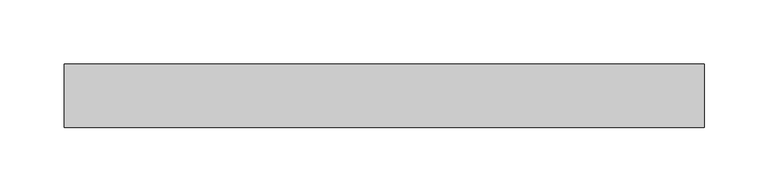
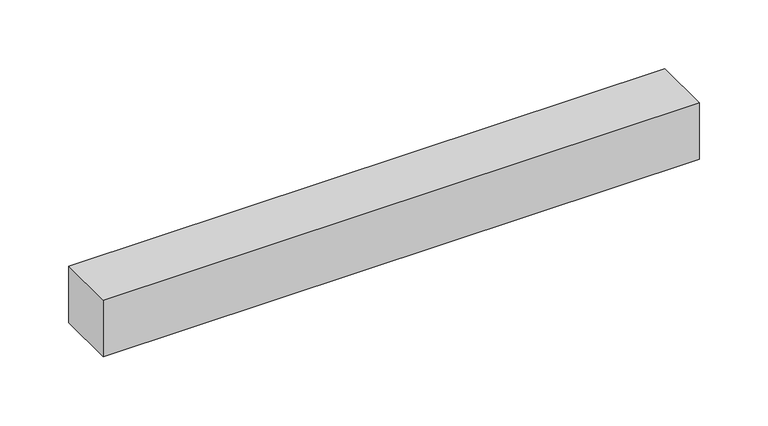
"""IFC4 building model written with IfcOpenShell, lengths in millimetres: light fixture geometry, GENILED_Светильник светодиодный_Line Alum Advanced : Line Alum Advanced 500x50x50 20Вт 90Ra Опал."""

from ifc_helpers import new_model, si_unit, origin, origin_with_axes, place, context, project, spatial, polyline, outline, extrude, faceted_brep, source, transform, mapped, element, save


def light_fixture_ffda42ea(model_context):
    return source(origin(), model_context, "Body", "SolidModel", [
        faceted_brep([(250.0, 25.0, 50.0), (-250.0, 25.0, 50.0), (-250.0, -25.0, 50.0), (250.0, -25.0, 50.0), (248.0, 23.0, 5.0), (248.0, -23.0, 5.0), (-248.0, -23.0, 5.0), (-248.0, 23.0, 5.0), (250.0, 25.0, 0.0), (250.0, -25.0, 0.0), (-250.0, -25.0, 0.0), (-250.0, 25.0, 0.0), (248.0, 23.0, 0.0), (-248.0, 23.0, 0.0), (-248.0, -23.0, 0.0), (248.0, -23.0, 0.0)], [[[0, 1, 2, 3]], [[4, 5, 6, 7]], [[8, 9, 10, 11], [12, 13, 14, 15]], [[1, 0, 8, 11]], [[2, 1, 11, 10]], [[3, 2, 10, 9]], [[0, 3, 9, 8]], [[12, 15, 5, 4]], [[15, 14, 6, 5]], [[14, 13, 7, 6]], [[13, 12, 4, 7]]]),
        extrude(outline(polyline([(248.0, 23.0), (248.0, -23.0), (-248.0, -23.0), (-248.0, 23.0), (248.0, 23.0)])), origin_with_axes(), (0.0, 0.0, 1.0), 5.0),
    ])


if __name__ == "__main__":
    model = new_model("IFC4")
    model_context = context("Model", 3, world=origin())
    ifc_project = project(units=[si_unit("LENGTHUNIT", "METRE", prefix="MILLI")], contexts=[model_context])
    site = spatial("IfcSite", under=ifc_project)
    building = spatial("IfcBuilding", under=site)
    placement = place(None, origin())
    light_fixture_shape = light_fixture_ffda42ea(model_context)
    element("IfcLightFixture", 1, ObjectType="GENILED_Светильник светодиодный_Line Alum Advanced : Line Alum Advanced 500x50x50 20Вт 90Ra Опал", at=placement, inside=building, context=model_context, shape_type="MappedRepresentation", body=[
        mapped(light_fixture_shape, transform((0.0, 0.0, 0.0), x_axis=(1.0, 0.0, 0.0), y_axis=(0.0, 1.0, 0.0), z_axis=(0.0, 0.0, 1.0))),
    ])
    save(model, "model.ifc")
